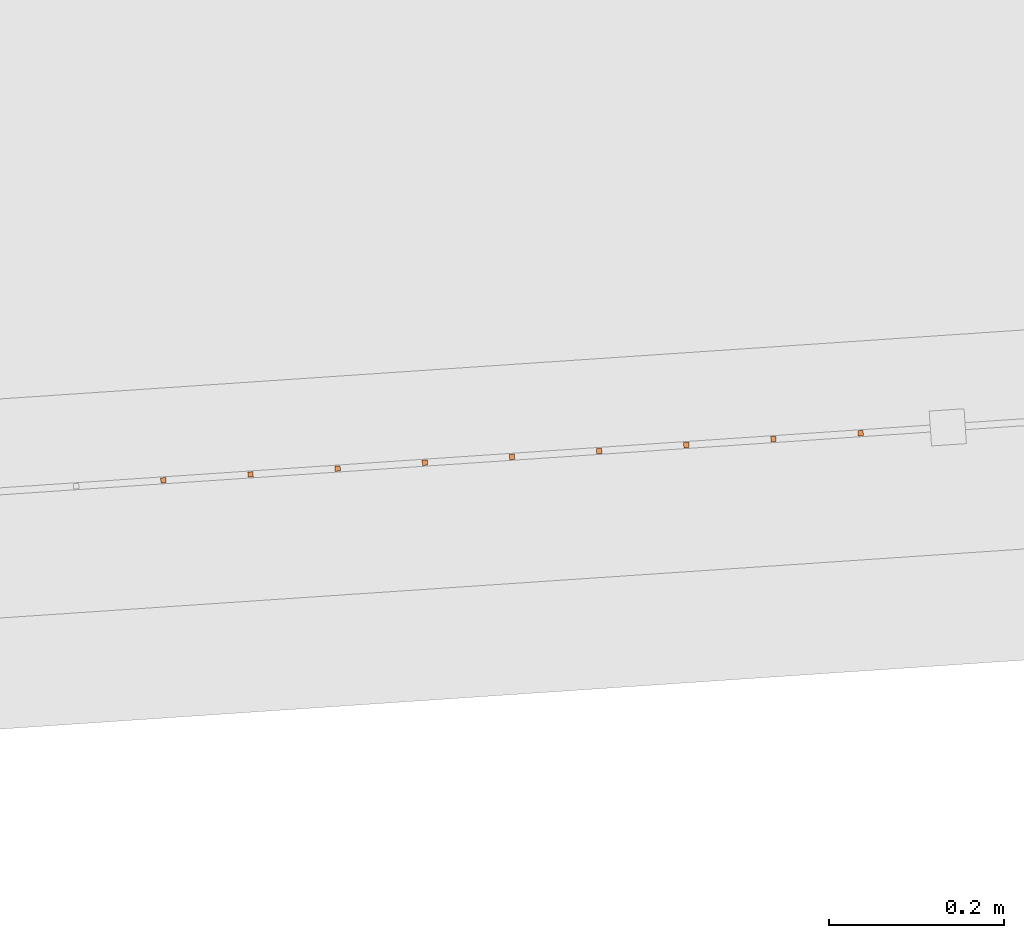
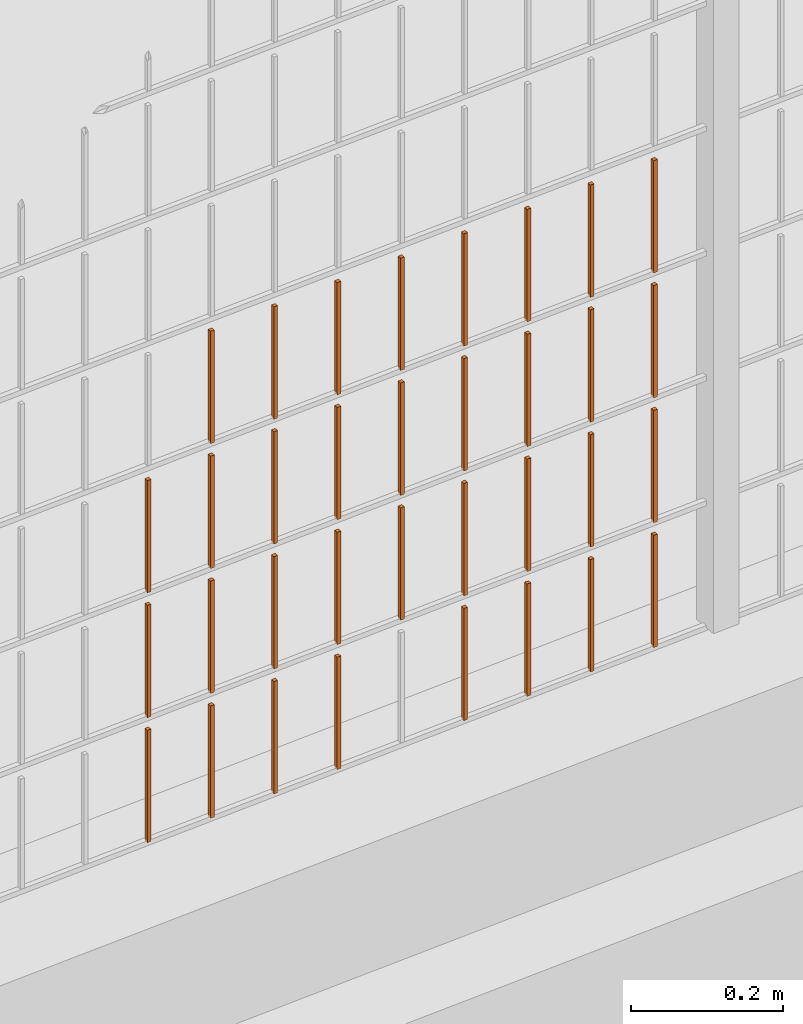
# One storey, part 334 of 1809: 34 proxies, 1 element without a shape of its own.
"""IFC2X3 building model written with IfcOpenShell, lengths in millimetres."""

from ifc_helpers import new_model, entity, si_unit, converted_unit, derived_unit, money_unit, direction, frame, origin_with_axes, place, context, subcontext, project, spatial, faceted_brep, source, transform, mapped, material, type_object, element, aggregate, save


model = new_model("IFC2X3")

# Units and contexts
model_context = context("Model", 3, precision=0.01, world=origin_with_axes(), true_north=direction((0.0, 1.0)))
body_context = subcontext(model_context, "Body", "Model", "MODEL_VIEW")
ifc_project = project(units=[si_unit("LENGTHUNIT", "METRE", prefix="MILLI"), si_unit("AREAUNIT", "SQUARE_METRE"), si_unit("VOLUMEUNIT", "CUBIC_METRE"), converted_unit("PLANEANGLEUNIT", "DEGREE", entity("IfcPlaneAngleMeasure", 0.0174532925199), si_unit("PLANEANGLEUNIT", "RADIAN"), dimensions=[0, 0, 0, 0, 0, 0, 0]), si_unit("SOLIDANGLEUNIT", "STERADIAN"), money_unit("EUR"), converted_unit("TIMEUNIT", "Year", entity("IfcTimeMeasure", 31556926.0), si_unit("TIMEUNIT", "SECOND"), dimensions=[0, 0, 1, 0, 0, 0, 0]), si_unit("MASSUNIT", "GRAM", prefix="KILO"), si_unit("THERMODYNAMICTEMPERATUREUNIT", "DEGREE_CELSIUS"), si_unit("LUMINOUSINTENSITYUNIT", "LUMEN"), si_unit("ENERGYUNIT", "JOULE", prefix="MEGA"), derived_unit("THERMALCONDUCTANCEUNIT", [(si_unit("POWERUNIT", "WATT"), 1), (si_unit("LENGTHUNIT", "METRE"), -1), (si_unit("THERMODYNAMICTEMPERATUREUNIT", "KELVIN"), -1)]), derived_unit("SPECIFICHEATCAPACITYUNIT", [(si_unit("ENERGYUNIT", "JOULE"), 1), (si_unit("MASSUNIT", "GRAM", prefix="KILO"), -1), (si_unit("THERMODYNAMICTEMPERATUREUNIT", "KELVIN"), -1)]), derived_unit("MASSDENSITYUNIT", [(si_unit("MASSUNIT", "GRAM", prefix="KILO"), 1), (si_unit("VOLUMEUNIT", "CUBIC_METRE"), -1)])], contexts=[model_context])

# Site, building, storey
site_placement = place(None, origin_with_axes())
site = spatial("IfcSite", under=ifc_project, at=site_placement, Name="Politse- ja Piirivalveameti ning Päästeameti ühishoone", CompositionType="ELEMENT")
building_placement = place(site_placement, origin_with_axes())
building = spatial("IfcBuilding", under=site, at=building_placement, Name="Politse- ja Piirivalveameti ning Päästeameti ühishoone", CompositionType="ELEMENT")
storey_placement = place(building_placement, origin_with_axes())
storey = spatial("IfcBuildingStorey", under=building, at=storey_placement, Name="Esimene korrus", CompositionType="ELEMENT", Elevation=0.0)

# Proxies
building_element_proxy_type_1 = type_object("IfcBuildingElementProxyType", Name="Railing Type", PredefinedType="NOTDEFINED")
proxy_1_placement = place(storey_placement, frame((89252.001212, -29183.4766571, 203.661247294), z_axis=(0.0, 0.0, 1.0), x_axis=(1.0, 0.0, 0.0)))
proxy_1 = element("IfcBuildingElementProxy", 1, at=proxy_1_placement, inside=storey, type_object=building_element_proxy_type_1, Name="PIIRDEAED")
ifc_material = material(Name="ET-03_Raud")
building_element_proxy_type_2 = type_object("IfcBuildingElementProxyType", Name="IfcBuildingElementProxy", PredefinedType="NOTDEFINED")
shared_shape_1 = source(origin_with_axes(), body_context, "Body", "Brep", [
    faceted_brep([(3.0, 3.0, -0.000752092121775), (-3.0, 3.0, -0.000752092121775), (-3.0, 3.0, 179.99926046), (3.0, 3.0, 179.99926046), (3.0, -3.0, 0.000752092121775), (-3.0, -3.0, 0.000752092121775), (-3.0, -3.0, 180.000764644), (3.0, -3.0, 180.000764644)], [[[0, 1, 2, 3]], [[0, 4, 5, 1]], [[1, 5, 6, 2]], [[3, 2, 6, 7]], [[4, 0, 3, 7]], [[5, 4, 7, 6]]]),
])
proxy_2_placement = place(proxy_1_placement, frame((-32352.9668747, -19483.0955783, 219.105099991), z_axis=(0.0, 0.0, 1.0), x_axis=(1.0, 0.0, 0.0)))
proxy_2 = element("IfcBuildingElementProxy", 2, at=proxy_2_placement, type_object=building_element_proxy_type_2, material=ifc_material, Name="BALUSTER - 001", context=body_context, shape_type="MappedRepresentation", body=[
    mapped(shared_shape_1, transform((0.0, 0.0, 0.0), x_axis=(-0.0673926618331, 0.997726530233, 0.0), y_axis=(-0.997726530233, -0.0673926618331, 0.0), z_axis=(0.0, 0.0, 1.0))),
])
shared_shape_2 = source(origin_with_axes(), body_context, "Body", "Brep", [
    faceted_brep([(3.0, 3.0, -0.000752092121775), (-3.0, 3.0, -0.000752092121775), (-3.0, 3.0, 179.99926046), (3.0, 3.0, 179.99926046), (3.0, -3.0, 0.000752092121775), (-3.0, -3.0, 0.000752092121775), (-3.0, -3.0, 180.000764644), (3.0, -3.0, 180.000764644)], [[[0, 1, 2, 3]], [[0, 4, 5, 1]], [[1, 5, 6, 2]], [[3, 2, 6, 7]], [[4, 0, 3, 7]], [[5, 4, 7, 6]]]),
])
proxy_3_placement = place(proxy_1_placement, frame((-32352.9668747, -19483.0955783, 419.105099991), z_axis=(0.0, 0.0, 1.0), x_axis=(1.0, 0.0, 0.0)))
proxy_3 = element("IfcBuildingElementProxy", 3, at=proxy_3_placement, type_object=building_element_proxy_type_2, material=ifc_material, Name="BALUSTER - 001", context=body_context, shape_type="MappedRepresentation", body=[
    mapped(shared_shape_2, transform((0.0, 0.0, 0.0), x_axis=(-0.0673926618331, 0.997726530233, 0.0), y_axis=(-0.997726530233, -0.0673926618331, 0.0), z_axis=(0.0, 0.0, 1.0))),
])
proxy_4_placement = place(proxy_1_placement, frame((-32352.9668747, -19483.0955783, 619.105099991), z_axis=(0.0, 0.0, 1.0), x_axis=(1.0, 0.0, 0.0)))
proxy_4 = element("IfcBuildingElementProxy", 4, at=proxy_4_placement, type_object=building_element_proxy_type_2, material=ifc_material, Name="BALUSTER - 001", context=body_context, shape_type="MappedRepresentation", body=[
    mapped(shared_shape_2, transform((0.0, 0.0, 0.0), x_axis=(-0.0673926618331, 0.997726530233, 0.0), y_axis=(-0.997726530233, -0.0673926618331, 0.0), z_axis=(0.0, 0.0, 1.0))),
])
shared_shape_3 = source(origin_with_axes(), body_context, "Body", "Brep", [
    faceted_brep([(3.0, 3.0, -0.000752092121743), (-3.0, 3.0, -0.000752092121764), (-3.0, 3.0, 179.99926046), (3.0, 3.0, 179.99926046), (3.0, -3.0, 0.000752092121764), (-3.0, -3.0, 0.000752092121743), (-3.0, -3.0, 180.000764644), (3.0, -3.0, 180.000764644)], [[[0, 1, 2, 3]], [[0, 4, 5, 1]], [[1, 5, 6, 2]], [[3, 2, 6, 7]], [[4, 0, 3, 7]], [[5, 4, 7, 6]]]),
])
proxy_5_placement = place(proxy_1_placement, frame((-33151.1480989, -19537.0097078, 18.9045420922), z_axis=(0.0, 0.0, 1.0), x_axis=(1.0, 0.0, 0.0)))
proxy_5 = element("IfcBuildingElementProxy", 5, at=proxy_5_placement, type_object=building_element_proxy_type_2, material=ifc_material, Name="BALUSTER - 001", context=body_context, shape_type="MappedRepresentation", body=[
    mapped(shared_shape_3, transform((0.0, 0.0, 0.0), x_axis=(-0.0673926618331, 0.997726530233, 0.0), y_axis=(-0.997726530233, -0.0673926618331, 0.0), z_axis=(0.0, 0.0, 1.0))),
])
proxy_6_placement = place(proxy_1_placement, frame((-33151.1480989, -19537.0097078, 218.904542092), z_axis=(0.0, 0.0, 1.0), x_axis=(1.0, 0.0, 0.0)))
proxy_6 = element("IfcBuildingElementProxy", 6, at=proxy_6_placement, type_object=building_element_proxy_type_2, material=ifc_material, Name="BALUSTER - 001", context=body_context, shape_type="MappedRepresentation", body=[
    mapped(shared_shape_3, transform((0.0, 0.0, 0.0), x_axis=(-0.0673926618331, 0.997726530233, 0.0), y_axis=(-0.997726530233, -0.0673926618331, 0.0), z_axis=(0.0, 0.0, 1.0))),
])
shared_shape_4 = source(origin_with_axes(), body_context, "Body", "Brep", [
    faceted_brep([(3.0, 3.0, -0.000752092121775), (-3.0, 3.0, -0.000752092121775), (-3.0, 3.0, 179.99926046), (3.0, 3.0, 179.99926046), (3.0, -3.0, 0.000752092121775), (-3.0, -3.0, 0.000752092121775), (-3.0, -3.0, 180.000764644), (3.0, -3.0, 180.000764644)], [[[0, 1, 2, 3]], [[0, 4, 5, 1]], [[1, 5, 6, 2]], [[3, 2, 6, 7]], [[4, 0, 3, 7]], [[5, 4, 7, 6]]]),
])
proxy_7_placement = place(proxy_1_placement, frame((-32352.9668747, -19483.0955783, 19.1050999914), z_axis=(0.0, 0.0, 1.0), x_axis=(1.0, 0.0, 0.0)))
proxy_7 = element("IfcBuildingElementProxy", 7, at=proxy_7_placement, type_object=building_element_proxy_type_2, material=ifc_material, Name="BALUSTER - 001", context=body_context, shape_type="MappedRepresentation", body=[
    mapped(shared_shape_4, transform((0.0, 0.0, 0.0), x_axis=(-0.0673926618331, 0.997726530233, 0.0), y_axis=(-0.997726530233, -0.0673926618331, 0.0), z_axis=(0.0, 0.0, 1.0))),
])
shared_shape_5 = source(origin_with_axes(), body_context, "Body", "Brep", [
    faceted_brep([(3.0, 3.0, -0.000752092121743), (-3.0, 3.0, -0.000752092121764), (-3.0, 3.0, 179.99926046), (3.0, 3.0, 179.99926046), (3.0, -3.0, 0.000752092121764), (-3.0, -3.0, 0.000752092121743), (-3.0, -3.0, 180.000764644), (3.0, -3.0, 180.000764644)], [[[0, 1, 2, 3]], [[0, 4, 5, 1]], [[1, 5, 6, 2]], [[3, 2, 6, 7]], [[4, 0, 3, 7]], [[5, 4, 7, 6]]]),
])
proxy_8_placement = place(proxy_1_placement, frame((-33151.1480989, -19537.0097078, 418.904542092), z_axis=(0.0, 0.0, 1.0), x_axis=(1.0, 0.0, 0.0)))
proxy_8 = element("IfcBuildingElementProxy", 8, at=proxy_8_placement, type_object=building_element_proxy_type_2, material=ifc_material, Name="BALUSTER - 001", context=body_context, shape_type="MappedRepresentation", body=[
    mapped(shared_shape_5, transform((0.0, 0.0, 0.0), x_axis=(-0.0673926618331, 0.997726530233, 0.0), y_axis=(-0.997726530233, -0.0673926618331, 0.0), z_axis=(0.0, 0.0, 1.0))),
])
shared_shape_6 = source(origin_with_axes(), body_context, "Body", "Brep", [
    faceted_brep([(3.0, 3.0, -0.000752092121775), (-3.0, 3.0, -0.000752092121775), (-3.0, 3.0, 179.99926046), (3.0, 3.0, 179.99926046), (3.0, -3.0, 0.000752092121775), (-3.0, -3.0, 0.000752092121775), (-3.0, -3.0, 180.000764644), (3.0, -3.0, 180.000764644)], [[[0, 1, 2, 3]], [[0, 4, 5, 1]], [[1, 5, 6, 2]], [[3, 2, 6, 7]], [[4, 0, 3, 7]], [[5, 4, 7, 6]]]),
])
proxy_9_placement = place(proxy_1_placement, frame((-33051.3754459, -19530.2704416, 418.92961183), z_axis=(0.0, 0.0, 1.0), x_axis=(1.0, 0.0, 0.0)))
proxy_9 = element("IfcBuildingElementProxy", 9, at=proxy_9_placement, type_object=building_element_proxy_type_2, material=ifc_material, Name="BALUSTER - 001", context=body_context, shape_type="MappedRepresentation", body=[
    mapped(shared_shape_6, transform((0.0, 0.0, 0.0), x_axis=(-0.0673926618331, 0.997726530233, 0.0), y_axis=(-0.997726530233, -0.0673926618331, 0.0), z_axis=(0.0, 0.0, 1.0))),
])
shared_shape_7 = source(origin_with_axes(), body_context, "Body", "Brep", [
    faceted_brep([(3.0, 3.0, -0.000752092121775), (-3.0, 3.0, -0.000752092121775), (-3.0, 3.0, 179.99926046), (3.0, 3.0, 179.99926046), (3.0, -3.0, 0.000752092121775), (-3.0, -3.0, 0.000752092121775), (-3.0, -3.0, 180.000764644), (3.0, -3.0, 180.000764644)], [[[0, 1, 2, 3]], [[0, 4, 5, 1]], [[1, 5, 6, 2]], [[3, 2, 6, 7]], [[4, 0, 3, 7]], [[5, 4, 7, 6]]]),
])
proxy_10_placement = place(proxy_1_placement, frame((-33051.3754459, -19530.2704416, 218.92961183), z_axis=(0.0, 0.0, 1.0), x_axis=(1.0, 0.0, 0.0)))
proxy_10 = element("IfcBuildingElementProxy", 10, at=proxy_10_placement, type_object=building_element_proxy_type_2, material=ifc_material, Name="BALUSTER - 001", context=body_context, shape_type="MappedRepresentation", body=[
    mapped(shared_shape_7, transform((0.0, 0.0, 0.0), x_axis=(-0.0673926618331, 0.997726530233, 0.0), y_axis=(-0.997726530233, -0.0673926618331, 0.0), z_axis=(0.0, 0.0, 1.0))),
])
shared_shape_8 = source(origin_with_axes(), body_context, "Body", "Brep", [
    faceted_brep([(3.0, 3.0, -0.000752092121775), (-3.0, 3.0, -0.000752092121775), (-3.0, 3.0, 179.99926046), (3.0, 3.0, 179.99926046), (3.0, -3.0, 0.000752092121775), (-3.0, -3.0, 0.000752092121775), (-3.0, -3.0, 180.000764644), (3.0, -3.0, 180.000764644)], [[[0, 1, 2, 3]], [[0, 4, 5, 1]], [[1, 5, 6, 2]], [[3, 2, 6, 7]], [[4, 0, 3, 7]], [[5, 4, 7, 6]]]),
])
proxy_11_placement = place(proxy_1_placement, frame((-33051.3754459, -19530.2704416, 618.92961183), z_axis=(0.0, 0.0, 1.0), x_axis=(1.0, 0.0, 0.0)))
proxy_11 = element("IfcBuildingElementProxy", 11, at=proxy_11_placement, type_object=building_element_proxy_type_2, material=ifc_material, Name="BALUSTER - 001", context=body_context, shape_type="MappedRepresentation", body=[
    mapped(shared_shape_8, transform((0.0, 0.0, 0.0), x_axis=(-0.0673926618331, 0.997726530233, 0.0), y_axis=(-0.997726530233, -0.0673926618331, 0.0), z_axis=(0.0, 0.0, 1.0))),
])
shared_shape_9 = source(origin_with_axes(), body_context, "Body", "Brep", [
    faceted_brep([(3.0, 3.0, -0.000752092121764), (-3.0, 3.0, -0.000752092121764), (-3.0, 3.0, 179.99926046), (3.0, 3.0, 179.99926046), (3.0, -3.0, 0.000752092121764), (-3.0, -3.0, 0.000752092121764), (-3.0, -3.0, 180.000764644), (3.0, -3.0, 180.000764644)], [[[0, 1, 2, 3]], [[0, 4, 5, 1]], [[1, 5, 6, 2]], [[3, 2, 6, 7]], [[4, 0, 3, 7]], [[5, 4, 7, 6]]]),
])
proxy_12_placement = place(proxy_1_placement, frame((-32452.7395278, -19489.8348445, 619.080030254), z_axis=(0.0, 0.0, 1.0), x_axis=(1.0, 0.0, 0.0)))
proxy_12 = element("IfcBuildingElementProxy", 12, at=proxy_12_placement, type_object=building_element_proxy_type_2, material=ifc_material, Name="BALUSTER - 001", context=body_context, shape_type="MappedRepresentation", body=[
    mapped(shared_shape_9, transform((0.0, 0.0, 0.0), x_axis=(-0.0673926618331, 0.997726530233, 0.0), y_axis=(-0.997726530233, -0.0673926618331, 0.0), z_axis=(0.0, 0.0, 1.0))),
])
shared_shape_10 = source(origin_with_axes(), body_context, "Body", "Brep", [
    faceted_brep([(3.0, 3.0, -0.000752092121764), (-3.0, 3.0, -0.000752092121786), (-3.0, 3.0, 179.99926046), (3.0, 3.0, 179.99926046), (3.0, -3.0, 0.000752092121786), (-3.0, -3.0, 0.000752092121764), (-3.0, -3.0, 180.000764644), (3.0, -3.0, 180.000764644)], [[[0, 1, 2, 3]], [[0, 4, 5, 1]], [[1, 5, 6, 2]], [[3, 2, 6, 7]], [[4, 0, 3, 7]], [[5, 4, 7, 6]]]),
])
proxy_13_placement = place(proxy_1_placement, frame((-32652.2848338, -19503.3133769, 19.0298907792), z_axis=(0.0, 0.0, 1.0), x_axis=(1.0, 0.0, 0.0)))
proxy_13 = element("IfcBuildingElementProxy", 13, at=proxy_13_placement, type_object=building_element_proxy_type_2, material=ifc_material, Name="BALUSTER - 001", context=body_context, shape_type="MappedRepresentation", body=[
    mapped(shared_shape_10, transform((0.0, 0.0, 0.0), x_axis=(-0.0673926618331, 0.997726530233, 0.0), y_axis=(-0.997726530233, -0.0673926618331, 0.0), z_axis=(0.0, 0.0, 1.0))),
])
shared_shape_11 = source(origin_with_axes(), body_context, "Body", "Brep", [
    faceted_brep([(3.0, 3.0, -0.000752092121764), (-3.0, 3.0, -0.000752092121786), (-3.0, 3.0, 179.99926046), (3.0, 3.0, 179.99926046), (3.0, -3.0, 0.000752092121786), (-3.0, -3.0, 0.000752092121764), (-3.0, -3.0, 180.000764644), (3.0, -3.0, 180.000764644)], [[[0, 1, 2, 3]], [[0, 4, 5, 1]], [[1, 5, 6, 2]], [[3, 2, 6, 7]], [[4, 0, 3, 7]], [[5, 4, 7, 6]]]),
])
proxy_14_placement = place(proxy_1_placement, frame((-32951.6027929, -19523.5311754, 218.954681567), z_axis=(0.0, 0.0, 1.0), x_axis=(1.0, 0.0, 0.0)))
proxy_14 = element("IfcBuildingElementProxy", 14, at=proxy_14_placement, type_object=building_element_proxy_type_2, material=ifc_material, Name="BALUSTER - 001", context=body_context, shape_type="MappedRepresentation", body=[
    mapped(shared_shape_11, transform((0.0, 0.0, 0.0), x_axis=(-0.0673926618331, 0.997726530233, 0.0), y_axis=(-0.997726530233, -0.0673926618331, 0.0), z_axis=(0.0, 0.0, 1.0))),
])
proxy_15_placement = place(proxy_1_placement, frame((-32951.6027929, -19523.5311754, 418.954681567), z_axis=(0.0, 0.0, 1.0), x_axis=(1.0, 0.0, 0.0)))
proxy_15 = element("IfcBuildingElementProxy", 15, at=proxy_15_placement, type_object=building_element_proxy_type_2, material=ifc_material, Name="BALUSTER - 001", context=body_context, shape_type="MappedRepresentation", body=[
    mapped(shared_shape_11, transform((0.0, 0.0, 0.0), x_axis=(-0.0673926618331, 0.997726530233, 0.0), y_axis=(-0.997726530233, -0.0673926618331, 0.0), z_axis=(0.0, 0.0, 1.0))),
])
shared_shape_12 = source(origin_with_axes(), body_context, "Body", "Brep", [
    faceted_brep([(3.0, 3.0, -0.000752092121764), (-3.0, 3.0, -0.000752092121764), (-3.0, 3.0, 179.99926046), (3.0, 3.0, 179.99926046), (3.0, -3.0, 0.000752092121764), (-3.0, -3.0, 0.000752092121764), (-3.0, -3.0, 180.000764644), (3.0, -3.0, 180.000764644)], [[[0, 1, 2, 3]], [[0, 4, 5, 1]], [[1, 5, 6, 2]], [[3, 2, 6, 7]], [[4, 0, 3, 7]], [[5, 4, 7, 6]]]),
])
proxy_16_placement = place(proxy_1_placement, frame((-32452.7395278, -19489.8348445, 219.080030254), z_axis=(0.0, 0.0, 1.0), x_axis=(1.0, 0.0, 0.0)))
proxy_16 = element("IfcBuildingElementProxy", 16, at=proxy_16_placement, type_object=building_element_proxy_type_2, material=ifc_material, Name="BALUSTER - 001", context=body_context, shape_type="MappedRepresentation", body=[
    mapped(shared_shape_12, transform((0.0, 0.0, 0.0), x_axis=(-0.0673926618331, 0.997726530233, 0.0), y_axis=(-0.997726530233, -0.0673926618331, 0.0), z_axis=(0.0, 0.0, 1.0))),
])
shared_shape_13 = source(origin_with_axes(), body_context, "Body", "Brep", [
    faceted_brep([(3.0, 3.0, -0.000752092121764), (-3.0, 3.0, -0.000752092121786), (-3.0, 3.0, 179.99926046), (3.0, 3.0, 179.99926046), (3.0, -3.0, 0.000752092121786), (-3.0, -3.0, 0.000752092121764), (-3.0, -3.0, 180.000764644), (3.0, -3.0, 180.000764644)], [[[0, 1, 2, 3]], [[0, 4, 5, 1]], [[1, 5, 6, 2]], [[3, 2, 6, 7]], [[4, 0, 3, 7]], [[5, 4, 7, 6]]]),
])
proxy_17_placement = place(proxy_1_placement, frame((-32652.2848338, -19503.3133769, 419.029890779), z_axis=(0.0, 0.0, 1.0), x_axis=(1.0, 0.0, 0.0)))
proxy_17 = element("IfcBuildingElementProxy", 17, at=proxy_17_placement, type_object=building_element_proxy_type_2, material=ifc_material, Name="BALUSTER - 001", context=body_context, shape_type="MappedRepresentation", body=[
    mapped(shared_shape_13, transform((0.0, 0.0, 0.0), x_axis=(-0.0673926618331, 0.997726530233, 0.0), y_axis=(-0.997726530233, -0.0673926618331, 0.0), z_axis=(0.0, 0.0, 1.0))),
])
proxy_18_placement = place(proxy_1_placement, frame((-32652.2848338, -19503.3133769, 619.029890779), z_axis=(0.0, 0.0, 1.0), x_axis=(1.0, 0.0, 0.0)))
proxy_18 = element("IfcBuildingElementProxy", 18, at=proxy_18_placement, type_object=building_element_proxy_type_2, material=ifc_material, Name="BALUSTER - 001", context=body_context, shape_type="MappedRepresentation", body=[
    mapped(shared_shape_13, transform((0.0, 0.0, 0.0), x_axis=(-0.0673926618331, 0.997726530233, 0.0), y_axis=(-0.997726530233, -0.0673926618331, 0.0), z_axis=(0.0, 0.0, 1.0))),
])
shared_shape_14 = source(origin_with_axes(), body_context, "Body", "Brep", [
    faceted_brep([(3.0, 3.0, -0.000752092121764), (-3.0, 3.0, -0.000752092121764), (-3.0, 3.0, 179.99926046), (3.0, 3.0, 179.99926046), (3.0, -3.0, 0.000752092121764), (-3.0, -3.0, 0.000752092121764), (-3.0, -3.0, 180.000764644), (3.0, -3.0, 180.000764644)], [[[0, 1, 2, 3]], [[0, 4, 5, 1]], [[1, 5, 6, 2]], [[3, 2, 6, 7]], [[4, 0, 3, 7]], [[5, 4, 7, 6]]]),
])
proxy_19_placement = place(proxy_1_placement, frame((-32851.8301399, -19516.7919092, 218.979751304), z_axis=(0.0, 0.0, 1.0), x_axis=(1.0, 0.0, 0.0)))
proxy_19 = element("IfcBuildingElementProxy", 19, at=proxy_19_placement, type_object=building_element_proxy_type_2, material=ifc_material, Name="BALUSTER - 001", context=body_context, shape_type="MappedRepresentation", body=[
    mapped(shared_shape_14, transform((0.0, 0.0, 0.0), x_axis=(-0.0673926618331, 0.997726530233, 0.0), y_axis=(-0.997726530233, -0.0673926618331, 0.0), z_axis=(0.0, 0.0, 1.0))),
])
proxy_20_placement = place(proxy_1_placement, frame((-32452.7395278, -19489.8348445, 419.080030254), z_axis=(0.0, 0.0, 1.0), x_axis=(1.0, 0.0, 0.0)))
proxy_20 = element("IfcBuildingElementProxy", 20, at=proxy_20_placement, type_object=building_element_proxy_type_2, material=ifc_material, Name="BALUSTER - 001", context=body_context, shape_type="MappedRepresentation", body=[
    mapped(shared_shape_14, transform((0.0, 0.0, 0.0), x_axis=(-0.0673926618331, 0.997726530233, 0.0), y_axis=(-0.997726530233, -0.0673926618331, 0.0), z_axis=(0.0, 0.0, 1.0))),
])
proxy_21_placement = place(proxy_1_placement, frame((-32851.8301399, -19516.7919092, 618.979751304), z_axis=(0.0, 0.0, 1.0), x_axis=(1.0, 0.0, 0.0)))
proxy_21 = element("IfcBuildingElementProxy", 21, at=proxy_21_placement, type_object=building_element_proxy_type_2, material=ifc_material, Name="BALUSTER - 001", context=body_context, shape_type="MappedRepresentation", body=[
    mapped(shared_shape_14, transform((0.0, 0.0, 0.0), x_axis=(-0.0673926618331, 0.997726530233, 0.0), y_axis=(-0.997726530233, -0.0673926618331, 0.0), z_axis=(0.0, 0.0, 1.0))),
])
shared_shape_15 = source(origin_with_axes(), body_context, "Body", "Brep", [
    faceted_brep([(3.0, 3.0, -0.000752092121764), (-3.0, 3.0, -0.000752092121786), (-3.0, 3.0, 179.99926046), (3.0, 3.0, 179.99926046), (3.0, -3.0, 0.000752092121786), (-3.0, -3.0, 0.000752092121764), (-3.0, -3.0, 180.000764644), (3.0, -3.0, 180.000764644)], [[[0, 1, 2, 3]], [[0, 4, 5, 1]], [[1, 5, 6, 2]], [[3, 2, 6, 7]], [[4, 0, 3, 7]], [[5, 4, 7, 6]]]),
])
proxy_22_placement = place(proxy_1_placement, frame((-32951.6027929, -19523.5311754, 618.954681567), z_axis=(0.0, 0.0, 1.0), x_axis=(1.0, 0.0, 0.0)))
proxy_22 = element("IfcBuildingElementProxy", 22, at=proxy_22_placement, type_object=building_element_proxy_type_2, material=ifc_material, Name="BALUSTER - 001", context=body_context, shape_type="MappedRepresentation", body=[
    mapped(shared_shape_15, transform((0.0, 0.0, 0.0), x_axis=(-0.0673926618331, 0.997726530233, 0.0), y_axis=(-0.997726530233, -0.0673926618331, 0.0), z_axis=(0.0, 0.0, 1.0))),
])
shared_shape_16 = source(origin_with_axes(), body_context, "Body", "Brep", [
    faceted_brep([(3.0, 3.0, -0.000752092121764), (-3.0, 3.0, -0.000752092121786), (-3.0, 3.0, 179.99926046), (3.0, 3.0, 179.99926046), (3.0, -3.0, 0.000752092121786), (-3.0, -3.0, 0.000752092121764), (-3.0, -3.0, 180.000764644), (3.0, -3.0, 180.000764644)], [[[0, 1, 2, 3]], [[0, 4, 5, 1]], [[1, 5, 6, 2]], [[3, 2, 6, 7]], [[4, 0, 3, 7]], [[5, 4, 7, 6]]]),
])
proxy_23_placement = place(proxy_1_placement, frame((-32951.6027929, -19523.5311754, 18.954681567), z_axis=(0.0, 0.0, 1.0), x_axis=(1.0, 0.0, 0.0)))
proxy_23 = element("IfcBuildingElementProxy", 23, at=proxy_23_placement, type_object=building_element_proxy_type_2, material=ifc_material, Name="BALUSTER - 001", context=body_context, shape_type="MappedRepresentation", body=[
    mapped(shared_shape_16, transform((0.0, 0.0, 0.0), x_axis=(-0.0673926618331, 0.997726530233, 0.0), y_axis=(-0.997726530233, -0.0673926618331, 0.0), z_axis=(0.0, 0.0, 1.0))),
])
shared_shape_17 = source(origin_with_axes(), body_context, "Body", "Brep", [
    faceted_brep([(3.0, 3.0, -0.000752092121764), (-3.0, 3.0, -0.000752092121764), (-3.0, 3.0, 179.99926046), (3.0, 3.0, 179.99926046), (3.0, -3.0, 0.000752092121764), (-3.0, -3.0, 0.000752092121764), (-3.0, -3.0, 180.000764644), (3.0, -3.0, 180.000764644)], [[[0, 1, 2, 3]], [[0, 4, 5, 1]], [[1, 5, 6, 2]], [[3, 2, 6, 7]], [[4, 0, 3, 7]], [[5, 4, 7, 6]]]),
])
proxy_24_placement = place(proxy_1_placement, frame((-32452.7395278, -19489.8348445, 19.080030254), z_axis=(0.0, 0.0, 1.0), x_axis=(1.0, 0.0, 0.0)))
proxy_24 = element("IfcBuildingElementProxy", 24, at=proxy_24_placement, type_object=building_element_proxy_type_2, material=ifc_material, Name="BALUSTER - 001", context=body_context, shape_type="MappedRepresentation", body=[
    mapped(shared_shape_17, transform((0.0, 0.0, 0.0), x_axis=(-0.0673926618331, 0.997726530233, 0.0), y_axis=(-0.997726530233, -0.0673926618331, 0.0), z_axis=(0.0, 0.0, 1.0))),
])
shared_shape_18 = source(origin_with_axes(), body_context, "Body", "Brep", [
    faceted_brep([(3.0, 3.0, -0.000752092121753), (-3.0, 3.0, -0.000752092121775), (-3.0, 3.0, 179.99926046), (3.0, 3.0, 179.99926046), (3.0, -3.0, 0.000752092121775), (-3.0, -3.0, 0.000752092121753), (-3.0, -3.0, 180.000764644), (3.0, -3.0, 180.000764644)], [[[0, 1, 2, 3]], [[0, 4, 5, 1]], [[1, 5, 6, 2]], [[3, 2, 6, 7]], [[4, 0, 3, 7]], [[5, 4, 7, 6]]]),
])
proxy_25_placement = place(proxy_1_placement, frame((-32552.5121808, -19496.5741107, 19.0549605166), z_axis=(0.0, 0.0, 1.0), x_axis=(1.0, 0.0, 0.0)))
proxy_25 = element("IfcBuildingElementProxy", 25, at=proxy_25_placement, type_object=building_element_proxy_type_2, material=ifc_material, Name="BALUSTER - 001", context=body_context, shape_type="MappedRepresentation", body=[
    mapped(shared_shape_18, transform((0.0, 0.0, 0.0), x_axis=(-0.0673926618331, 0.997726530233, 0.0), y_axis=(-0.997726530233, -0.0673926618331, 0.0), z_axis=(0.0, 0.0, 1.0))),
])
proxy_26_placement = place(proxy_1_placement, frame((-32552.5121808, -19496.5741107, 219.054960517), z_axis=(0.0, 0.0, 1.0), x_axis=(1.0, 0.0, 0.0)))
proxy_26 = element("IfcBuildingElementProxy", 26, at=proxy_26_placement, type_object=building_element_proxy_type_2, material=ifc_material, Name="BALUSTER - 001", context=body_context, shape_type="MappedRepresentation", body=[
    mapped(shared_shape_18, transform((0.0, 0.0, 0.0), x_axis=(-0.0673926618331, 0.997726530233, 0.0), y_axis=(-0.997726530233, -0.0673926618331, 0.0), z_axis=(0.0, 0.0, 1.0))),
])
shared_shape_19 = source(origin_with_axes(), body_context, "Body", "Brep", [
    faceted_brep([(3.0, 3.0, -0.000752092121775), (-3.0, 3.0, -0.000752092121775), (-3.0, 3.0, 179.99926046), (3.0, 3.0, 179.99926046), (3.0, -3.0, 0.000752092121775), (-3.0, -3.0, 0.000752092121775), (-3.0, -3.0, 180.000764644), (3.0, -3.0, 180.000764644)], [[[0, 1, 2, 3]], [[0, 4, 5, 1]], [[1, 5, 6, 2]], [[3, 2, 6, 7]], [[4, 0, 3, 7]], [[5, 4, 7, 6]]]),
])
proxy_27_placement = place(proxy_1_placement, frame((-33051.3754459, -19530.2704416, 18.9296118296), z_axis=(0.0, 0.0, 1.0), x_axis=(1.0, 0.0, 0.0)))
proxy_27 = element("IfcBuildingElementProxy", 27, at=proxy_27_placement, type_object=building_element_proxy_type_2, material=ifc_material, Name="BALUSTER - 001", context=body_context, shape_type="MappedRepresentation", body=[
    mapped(shared_shape_19, transform((0.0, 0.0, 0.0), x_axis=(-0.0673926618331, 0.997726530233, 0.0), y_axis=(-0.997726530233, -0.0673926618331, 0.0), z_axis=(0.0, 0.0, 1.0))),
])
shared_shape_20 = source(origin_with_axes(), body_context, "Body", "Brep", [
    faceted_brep([(3.0, 3.0, -0.000752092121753), (-3.0, 3.0, -0.000752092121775), (-3.0, 3.0, 179.99926046), (3.0, 3.0, 179.99926046), (3.0, -3.0, 0.000752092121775), (-3.0, -3.0, 0.000752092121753), (-3.0, -3.0, 180.000764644), (3.0, -3.0, 180.000764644)], [[[0, 1, 2, 3]], [[0, 4, 5, 1]], [[1, 5, 6, 2]], [[3, 2, 6, 7]], [[4, 0, 3, 7]], [[5, 4, 7, 6]]]),
])
proxy_28_placement = place(proxy_1_placement, frame((-32552.5121808, -19496.5741107, 619.054960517), z_axis=(0.0, 0.0, 1.0), x_axis=(1.0, 0.0, 0.0)))
proxy_28 = element("IfcBuildingElementProxy", 28, at=proxy_28_placement, type_object=building_element_proxy_type_2, material=ifc_material, Name="BALUSTER - 001", context=body_context, shape_type="MappedRepresentation", body=[
    mapped(shared_shape_20, transform((0.0, 0.0, 0.0), x_axis=(-0.0673926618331, 0.997726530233, 0.0), y_axis=(-0.997726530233, -0.0673926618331, 0.0), z_axis=(0.0, 0.0, 1.0))),
])
shared_shape_21 = source(origin_with_axes(), body_context, "Body", "Brep", [
    faceted_brep([(3.0, 3.0, -0.000752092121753), (-3.0, 3.0, -0.000752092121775), (-3.0, 3.0, 179.99926046), (3.0, 3.0, 179.99926046), (3.0, -3.0, 0.000752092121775), (-3.0, -3.0, 0.000752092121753), (-3.0, -3.0, 180.000764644), (3.0, -3.0, 180.000764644)], [[[0, 1, 2, 3]], [[0, 4, 5, 1]], [[1, 5, 6, 2]], [[3, 2, 6, 7]], [[4, 0, 3, 7]], [[5, 4, 7, 6]]]),
])
proxy_29_placement = place(proxy_1_placement, frame((-32552.5121808, -19496.5741107, 419.054960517), z_axis=(0.0, 0.0, 1.0), x_axis=(1.0, 0.0, 0.0)))
proxy_29 = element("IfcBuildingElementProxy", 29, at=proxy_29_placement, type_object=building_element_proxy_type_2, material=ifc_material, Name="BALUSTER - 001", context=body_context, shape_type="MappedRepresentation", body=[
    mapped(shared_shape_21, transform((0.0, 0.0, 0.0), x_axis=(-0.0673926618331, 0.997726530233, 0.0), y_axis=(-0.997726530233, -0.0673926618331, 0.0), z_axis=(0.0, 0.0, 1.0))),
])
shared_shape_22 = source(origin_with_axes(), body_context, "Body", "Brep", [
    faceted_brep([(3.0, 3.0, -0.000752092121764), (-3.0, 3.0, -0.000752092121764), (-3.0, 3.0, 179.99926046), (3.0, 3.0, 179.99926046), (3.0, -3.0, 0.000752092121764), (-3.0, -3.0, 0.000752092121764), (-3.0, -3.0, 180.000764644), (3.0, -3.0, 180.000764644)], [[[0, 1, 2, 3]], [[0, 4, 5, 1]], [[1, 5, 6, 2]], [[3, 2, 6, 7]], [[4, 0, 3, 7]], [[5, 4, 7, 6]]]),
])
proxy_30_placement = place(proxy_1_placement, frame((-32851.8301399, -19516.7919092, 18.9797513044), z_axis=(0.0, 0.0, 1.0), x_axis=(1.0, 0.0, 0.0)))
proxy_30 = element("IfcBuildingElementProxy", 30, at=proxy_30_placement, type_object=building_element_proxy_type_2, material=ifc_material, Name="BALUSTER - 001", context=body_context, shape_type="MappedRepresentation", body=[
    mapped(shared_shape_22, transform((0.0, 0.0, 0.0), x_axis=(-0.0673926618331, 0.997726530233, 0.0), y_axis=(-0.997726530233, -0.0673926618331, 0.0), z_axis=(0.0, 0.0, 1.0))),
])
shared_shape_23 = source(origin_with_axes(), body_context, "Body", "Brep", [
    faceted_brep([(3.0, 3.0, -0.000752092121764), (-3.0, 3.0, -0.000752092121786), (-3.0, 3.0, 179.99926046), (3.0, 3.0, 179.99926046), (3.0, -3.0, 0.000752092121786), (-3.0, -3.0, 0.000752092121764), (-3.0, -3.0, 180.000764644), (3.0, -3.0, 180.000764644)], [[[0, 1, 2, 3]], [[0, 4, 5, 1]], [[1, 5, 6, 2]], [[3, 2, 6, 7]], [[4, 0, 3, 7]], [[5, 4, 7, 6]]]),
])
proxy_31_placement = place(proxy_1_placement, frame((-32652.2848338, -19503.3133769, 219.029890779), z_axis=(0.0, 0.0, 1.0), x_axis=(1.0, 0.0, 0.0)))
proxy_31 = element("IfcBuildingElementProxy", 31, at=proxy_31_placement, type_object=building_element_proxy_type_2, material=ifc_material, Name="BALUSTER - 001", context=body_context, shape_type="MappedRepresentation", body=[
    mapped(shared_shape_23, transform((0.0, 0.0, 0.0), x_axis=(-0.0673926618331, 0.997726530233, 0.0), y_axis=(-0.997726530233, -0.0673926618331, 0.0), z_axis=(0.0, 0.0, 1.0))),
])
shared_shape_24 = source(origin_with_axes(), body_context, "Body", "Brep", [
    faceted_brep([(3.0, 3.0, -0.000752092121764), (-3.0, 3.0, -0.000752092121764), (-3.0, 3.0, 179.99926046), (3.0, 3.0, 179.99926046), (3.0, -3.0, 0.000752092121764), (-3.0, -3.0, 0.000752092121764), (-3.0, -3.0, 180.000764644), (3.0, -3.0, 180.000764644)], [[[0, 1, 2, 3]], [[0, 4, 5, 1]], [[1, 5, 6, 2]], [[3, 2, 6, 7]], [[4, 0, 3, 7]], [[5, 4, 7, 6]]]),
])
proxy_32_placement = place(proxy_1_placement, frame((-32851.8301399, -19516.7919092, 418.979751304), z_axis=(0.0, 0.0, 1.0), x_axis=(1.0, 0.0, 0.0)))
proxy_32 = element("IfcBuildingElementProxy", 32, at=proxy_32_placement, type_object=building_element_proxy_type_2, material=ifc_material, Name="BALUSTER - 001", context=body_context, shape_type="MappedRepresentation", body=[
    mapped(shared_shape_24, transform((0.0, 0.0, 0.0), x_axis=(-0.0673926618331, 0.997726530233, 0.0), y_axis=(-0.997726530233, -0.0673926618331, 0.0), z_axis=(0.0, 0.0, 1.0))),
])
shared_shape_25 = source(origin_with_axes(), body_context, "Body", "Brep", [
    faceted_brep([(3.0, 3.0, -0.000752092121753), (-3.0, 3.0, -0.000752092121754), (-3.0, 3.0, 179.99926046), (3.0, 3.0, 179.99926046), (3.0, -3.0, 0.000752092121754), (-3.0, -3.0, 0.000752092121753), (-3.0, -3.0, 180.000764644), (3.0, -3.0, 180.000764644)], [[[0, 1, 2, 3]], [[0, 4, 5, 1]], [[1, 5, 6, 2]], [[3, 2, 6, 7]], [[4, 0, 3, 7]], [[5, 4, 7, 6]]]),
])
proxy_33_placement = place(proxy_1_placement, frame((-32752.0574868, -19510.052643, 219.004821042), z_axis=(0.0, 0.0, 1.0), x_axis=(1.0, 0.0, 0.0)))
proxy_33 = element("IfcBuildingElementProxy", 33, at=proxy_33_placement, type_object=building_element_proxy_type_2, material=ifc_material, Name="BALUSTER - 001", context=body_context, shape_type="MappedRepresentation", body=[
    mapped(shared_shape_25, transform((0.0, 0.0, 0.0), x_axis=(-0.0673926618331, 0.997726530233, 0.0), y_axis=(-0.997726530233, -0.0673926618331, 0.0), z_axis=(0.0, 0.0, 1.0))),
])
proxy_34_placement = place(proxy_1_placement, frame((-32752.0574868, -19510.052643, 419.004821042), z_axis=(0.0, 0.0, 1.0), x_axis=(1.0, 0.0, 0.0)))
proxy_34 = element("IfcBuildingElementProxy", 34, at=proxy_34_placement, type_object=building_element_proxy_type_2, material=ifc_material, Name="BALUSTER - 001", context=body_context, shape_type="MappedRepresentation", body=[
    mapped(shared_shape_25, transform((0.0, 0.0, 0.0), x_axis=(-0.0673926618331, 0.997726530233, 0.0), y_axis=(-0.997726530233, -0.0673926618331, 0.0), z_axis=(0.0, 0.0, 1.0))),
])
shared_shape_26 = source(origin_with_axes(), body_context, "Body", "Brep", [
    faceted_brep([(3.0, 3.0, -0.000752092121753), (-3.0, 3.0, -0.000752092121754), (-3.0, 3.0, 179.99926046), (3.0, 3.0, 179.99926046), (3.0, -3.0, 0.000752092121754), (-3.0, -3.0, 0.000752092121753), (-3.0, -3.0, 180.000764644), (3.0, -3.0, 180.000764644)], [[[0, 1, 2, 3]], [[0, 4, 5, 1]], [[1, 5, 6, 2]], [[3, 2, 6, 7]], [[4, 0, 3, 7]], [[5, 4, 7, 6]]]),
])
proxy_35_placement = place(proxy_1_placement, frame((-32752.0574868, -19510.052643, 619.004821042), z_axis=(0.0, 0.0, 1.0), x_axis=(1.0, 0.0, 0.0)))
proxy_35 = element("IfcBuildingElementProxy", 35, at=proxy_35_placement, type_object=building_element_proxy_type_2, material=ifc_material, Name="BALUSTER - 001", context=body_context, shape_type="MappedRepresentation", body=[
    mapped(shared_shape_26, transform((0.0, 0.0, 0.0), x_axis=(-0.0673926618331, 0.997726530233, 0.0), y_axis=(-0.997726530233, -0.0673926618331, 0.0), z_axis=(0.0, 0.0, 1.0))),
])
aggregate(proxy_1, [proxy_7, proxy_24, proxy_25, proxy_13, proxy_30, proxy_23, proxy_27, proxy_5, proxy_2, proxy_16, proxy_26, proxy_31, proxy_33, proxy_19, proxy_14, proxy_10, proxy_6, proxy_3, proxy_20, proxy_29, proxy_17, proxy_34, proxy_32, proxy_15, proxy_9, proxy_8, proxy_4, proxy_12, proxy_28, proxy_18, proxy_35, proxy_21, proxy_22, proxy_11])

save(model, "model.ifc")
